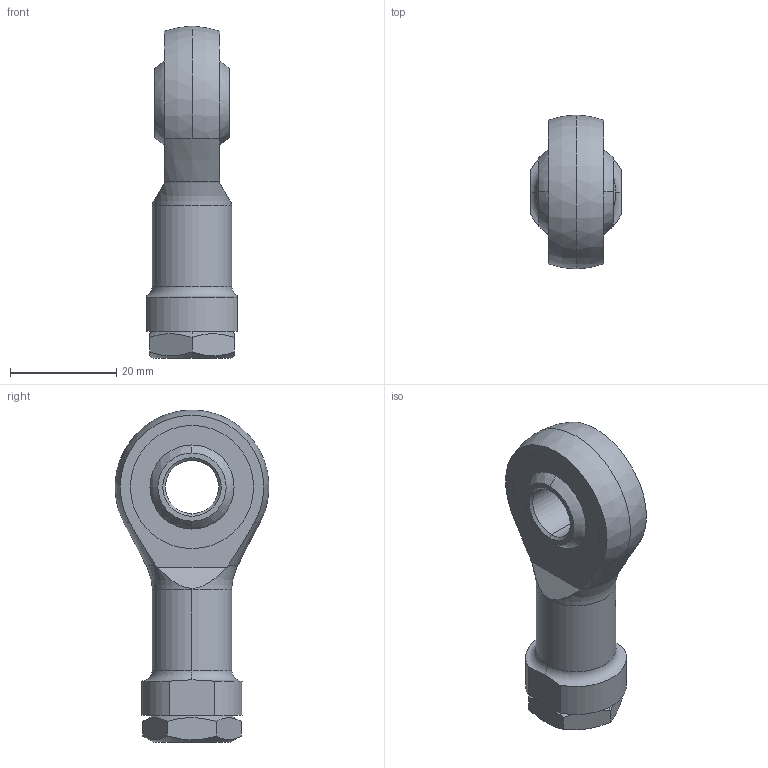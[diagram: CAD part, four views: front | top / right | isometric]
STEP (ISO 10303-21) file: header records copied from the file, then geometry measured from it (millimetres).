
FILE_DESCRIPTION (( 'STEP AP203' ), '1' );
FILE_NAME ('MJ0-KGK.STEP', '2024-01-05T12:34:55', ( '' ), ( '' ), 'SwSTEP 2.0', 'SolidWorks 2022', '' );
FILE_SCHEMA (( 'CONFIG_CONTROL_DESIGN' ));
Length unit declared in the file: millimetre
Products named in the file (1): MJ0-KGK
Bounding box: 17 x 28.99 x 62.5 mm (x, y, z)
Volume: 11476.8 mm3; surface area: 8259.7 mm2
Topology: 4 solids, 4 shells, 65 faces, 162 edges, 99 vertices
Faces by surface type: plane 19, cone 18, cylinder 18, sphere 6, torus 4
Entity records: 2298 total; most frequent: CARTESIAN_POINT 739, DIRECTION 325, ORIENTED_EDGE 304, EDGE_CURVE 152, AXIS2_PLACEMENT_3D 139, VERTEX_POINT 93, EDGE_LOOP 75, CIRCLE 73
